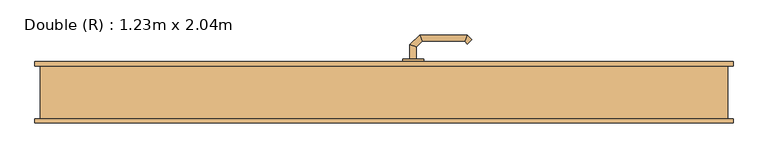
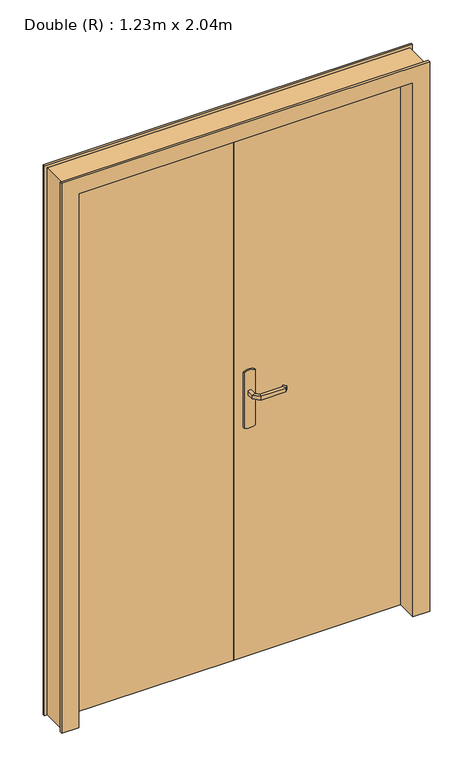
"""IFC4 building model written with IfcOpenShell, lengths in millimetres: door geometry, Double (R) : 1.23m x 2.04m."""

from ifc_helpers import new_model, si_unit, point, frame, frame_2d, origin, origin_with_axes, place, context, project, spatial, polyline, circle_curve, ellipse_curve, trimmed, segment, composite_curve, outline, extrude, faceted_brep, source, transform, mapped, element, save
from ifc_brep_helpers import plane_surface, cylinder_surface, advanced_brep


def double_r_1_23m_x_2_04m_3a946b1f(model_context):
    return source(origin(), model_context, "Body", "SolidModel", [
        advanced_brep(
        [(61.0, 13.0, 993.0), (49.0, 13.0, 993.0), (49.0, 13.0, 1007.0), (61.0, 13.0, 1007.0), (61.0, -9.4852045, 1007.0), (61.0, -9.4852045, 993.0), (49.0, -14.4557673, 1007.0), (49.0, -14.4557673, 993.0), (72.4852814, -20.9704859, 1007.0), (72.4852814, -20.9704859, 993.0), (67.5147186, -32.9704859, 1007.0), (67.5147186, -32.9704859, 993.0), (152.5605023, -20.9704859, 1007.0), (152.5605023, -20.9704859, 993.0), (157.531065, -32.9704859, 1007.0), (157.531065, -32.9704859, 993.0), (157.8742108, -15.6567774, 993.0), (157.8742108, -15.6567774, 1007.0), (166.3594922, -24.1420588, 1007.0), (166.3594922, -24.1420588, 993.0)],
        [
            (0, 1, circle_curve(frame((55.0, 13.0, 1013.0457722), z_axis=(0.0, 1.0, 0.0), x_axis=(-1.0, 0.0, 0.0)), 20.9244589)),
            (1, 2),
            (2, 3, circle_curve(frame((55.0, 13.0, 986.9542278), z_axis=(0.0, 1.0, 0.0), x_axis=(-1.0, 0.0, 0.0)), 20.9244589)),
            (3, 0),
            (3, 4),
            (4, 5),
            (5, 0),
            (2, 6),
            (6, 4, ellipse_curve(frame((55.0, -11.9704859, 986.9542278), z_axis=(-0.38268343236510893, 0.9238795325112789, 0.0), x_axis=(0.9238795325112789, 0.3826834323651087, 0.0)), 22.6484711, 20.9244589)),
            (1, 7),
            (7, 6),
            (5, 7, ellipse_curve(frame((55.0, -11.9704859, 1013.0457722), z_axis=(-0.38268343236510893, 0.9238795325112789, 0.0), x_axis=(0.9238795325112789, 0.3826834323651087, 0.0)), 22.6484711, 20.9244589)),
            (4, 8),
            (8, 9),
            (9, 5),
            (6, 10),
            (10, 8, ellipse_curve(frame((70.0, -26.9704859, 986.9542278), z_axis=(-0.9238795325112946, 0.38268343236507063, 0.0), x_axis=(0.3826834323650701, 0.9238795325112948, 0.0)), 22.6484711, 20.9244589)),
            (7, 11),
            (11, 10),
            (9, 11, ellipse_curve(frame((70.0, -26.9704859, 1013.0457722), z_axis=(-0.9238795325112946, 0.38268343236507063, 0.0), x_axis=(0.3826834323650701, 0.9238795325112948, 0.0)), 22.6484711, 20.9244589)),
            (8, 12),
            (12, 13),
            (13, 9),
            (10, 14),
            (14, 12, ellipse_curve(frame((155.0457837, -26.9704859, 986.9542278), z_axis=(-0.9238795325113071, -0.38268343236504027, 0.0), x_axis=(-0.38268343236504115, 0.9238795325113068, 0.0)), 22.6484711, 20.9244589)),
            (11, 15),
            (15, 14),
            (13, 15, ellipse_curve(frame((155.0457837, -26.9704859, 1013.0457722), z_axis=(-0.9238795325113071, -0.38268343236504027, 0.0), x_axis=(-0.38268343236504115, 0.9238795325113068, 0.0)), 22.6484711, 20.9244589)),
            (16, 17),
            (17, 18, circle_curve(frame((162.1168515, -19.8994181, 986.9542278), z_axis=(0.7071067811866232, 0.7071067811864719, 0.0), x_axis=(0.7071067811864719, -0.7071067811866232, 0.0)), 20.9244589)),
            (18, 19),
            (19, 16, circle_curve(frame((162.1168515, -19.8994181, 1013.0457722), z_axis=(0.7071067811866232, 0.7071067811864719, 0.0), x_axis=(0.7071067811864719, -0.7071067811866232, 0.0)), 20.9244589)),
            (12, 17),
            (16, 13),
            (14, 18),
            (15, 19),
        ],
        [
            plane_surface(frame((45.7804555, 13.0, 1000.0), z_axis=(0.0, 1.0, 0.0), x_axis=(0.0, 0.0, 1.0))),
            plane_surface(frame((61.0, 13.0, 993.0), z_axis=(1.0, 0.0, 0.0), x_axis=(0.0, -1.0, 0.0))),
            cylinder_surface(frame((55.0, 13.0, 986.9542278), z_axis=(0.0, 1.0, 0.0), x_axis=(-1.0, 0.0, 0.0)), 20.9244589),
            plane_surface(frame((49.0, 13.0, 1007.0), z_axis=(-1.0, 0.0, 0.0), x_axis=(0.0, -1.0, 0.0))),
            cylinder_surface(frame((55.0, 13.0, 1013.0457722), z_axis=(0.0, 1.0, 0.0), x_axis=(-1.0, 0.0, 0.0)), 20.9244589),
            plane_surface(frame((61.0, -9.4852045, 993.0), z_axis=(0.707106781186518, 0.707106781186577, 0.0), x_axis=(0.707106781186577, -0.707106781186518, 0.0))),
            cylinder_surface(frame((55.0, -11.9704859, 986.9542278), z_axis=(-0.7071067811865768, 0.7071067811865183, 0.0), x_axis=(-0.7071067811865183, -0.7071067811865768, 0.0)), 20.9244589),
            plane_surface(frame((49.0, -14.4557673, 1007.0), z_axis=(-0.7071067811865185, -0.7071067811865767, 0.0), x_axis=(0.7071067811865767, -0.7071067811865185, 0.0))),
            cylinder_surface(frame((55.0, -11.9704859, 1013.0457722), z_axis=(-0.7071067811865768, 0.7071067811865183, 0.0), x_axis=(-0.7071067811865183, -0.7071067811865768, 0.0)), 20.9244589),
            plane_surface(frame((72.4852814, -20.9704859, 993.0), z_axis=(0.0, 1.0, 0.0), x_axis=(1.0, 0.0, 0.0))),
            cylinder_surface(frame((70.0, -26.9704859, 986.9542278), z_axis=(-1.0, 0.0, 0.0), x_axis=(0.0, -1.0, 0.0)), 20.9244589),
            plane_surface(frame((67.5147186, -32.9704859, 1007.0), z_axis=(0.0, -1.0, 0.0), x_axis=(1.0, 0.0, 0.0))),
            cylinder_surface(frame((70.0, -26.9704859, 1013.0457722), z_axis=(-1.0, 0.0, 0.0), x_axis=(0.0, -1.0, 0.0)), 20.9244589),
            plane_surface(frame((162.1168515, -19.8994181, 990.7804555), z_axis=(0.7071067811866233, 0.7071067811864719, 0.0), x_axis=(0.7071067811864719, -0.7071067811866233, 0.0))),
            plane_surface(frame((152.5605023, -20.9704859, 993.0), z_axis=(-0.707106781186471, 0.7071067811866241, 0.0), x_axis=(0.7071067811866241, 0.707106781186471, 0.0))),
            cylinder_surface(frame((155.0457837, -26.9704859, 986.9542278), z_axis=(-0.7071067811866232, -0.7071067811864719, 0.0), x_axis=(0.7071067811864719, -0.7071067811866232, 0.0)), 20.9244589),
            plane_surface(frame((157.531065, -32.9704859, 1007.0), z_axis=(0.7071067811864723, -0.7071067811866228, 0.0), x_axis=(0.7071067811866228, 0.7071067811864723, 0.0))),
            cylinder_surface(frame((155.0457837, -26.9704859, 1013.0457722), z_axis=(-0.7071067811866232, -0.7071067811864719, 0.0), x_axis=(0.7071067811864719, -0.7071067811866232, 0.0)), 20.9244589),
        ],
        [
            (0, [[1, 2, 3, 4]]),
            (1, [[5, 6, 7, -4]]),
            (2, [[8, 9, -5, -3]]),
            (3, [[10, 11, -8, -2]]),
            (4, [[-7, 12, -10, -1]]),
            (5, [[13, 14, 15, -6]]),
            (6, [[16, 17, -13, -9]]),
            (7, [[18, 19, -16, -11]]),
            (8, [[-15, 20, -18, -12]]),
            (9, [[21, 22, 23, -14]]),
            (10, [[24, 25, -21, -17]]),
            (11, [[26, 27, -24, -19]]),
            (12, [[-23, 28, -26, -20]]),
            (13, [[29, 30, 31, 32]]),
            (14, [[33, -29, 34, -22]]),
            (15, [[35, -30, -33, -25]]),
            (16, [[36, -31, -35, -27]]),
            (17, [[-34, -32, -36, -28]]),
        ],
    ),
        advanced_brep(
        [(49.0, 63.0, 1007.0), (49.0, 63.0, 993.0), (61.0, 63.0, 993.0), (61.0, 63.0, 1007.0), (61.0, 85.680388, 1007.0), (49.0, 90.6509507, 1007.0), (61.0, 85.680388, 993.0), (49.0, 90.6509507, 993.0), (72.3477727, 97.0281607, 1007.0), (67.37721, 109.0281607, 1007.0), (72.3477727, 97.0281607, 993.0), (67.37721, 109.0281607, 993.0), (152.5333592, 97.0281607, 1007.0), (157.503922, 109.0281607, 1007.0), (152.5333592, 97.0281607, 993.0), (157.503922, 109.0281607, 993.0), (166.3323491, 100.1997336, 1007.0), (157.8470677, 91.7144522, 1007.0), (157.8470677, 91.7144522, 993.0), (166.3323491, 100.1997336, 993.0)],
        [
            (0, 1),
            (1, 2, circle_curve(frame((55.0, 63.0, 1013.0457722), z_axis=(0.0, -1.0, 0.0), x_axis=(1.0, 0.0, 0.0)), 20.9244589)),
            (2, 3),
            (3, 0, circle_curve(frame((55.0, 63.0, 986.9542278), z_axis=(0.0, -1.0, 0.0), x_axis=(1.0, 0.0, 0.0)), 20.9244589)),
            (3, 4),
            (4, 5, ellipse_curve(frame((55.0, 88.1656693, 986.9542278), z_axis=(-0.3826834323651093, -0.9238795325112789, 0.0), x_axis=(0.9238795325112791, -0.38268343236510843, 0.0)), 22.6484711, 20.9244589)),
            (5, 0),
            (2, 6),
            (6, 4),
            (1, 7),
            (7, 6, ellipse_curve(frame((55.0, 88.1656693, 1013.0457722), z_axis=(-0.3826834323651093, -0.9238795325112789, 0.0), x_axis=(0.9238795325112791, -0.38268343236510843, 0.0)), 22.6484711, 20.9244589)),
            (5, 7),
            (4, 8),
            (8, 9, ellipse_curve(frame((69.8624914, 103.0281607, 986.9542278), z_axis=(-0.9238795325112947, -0.38268343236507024, 0.0), x_axis=(0.3826834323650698, -0.9238795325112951, 0.0)), 22.6484711, 20.9244589)),
            (9, 5),
            (6, 10),
            (10, 8),
            (7, 11),
            (11, 10, ellipse_curve(frame((69.8624914, 103.0281607, 1013.0457722), z_axis=(-0.9238795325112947, -0.38268343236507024, 0.0), x_axis=(0.3826834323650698, -0.9238795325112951, 0.0)), 22.6484711, 20.9244589)),
            (9, 11),
            (8, 12),
            (12, 13, ellipse_curve(frame((155.0186406, 103.0281607, 986.9542278), z_axis=(-0.9238795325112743, 0.3826834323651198, 0.0), x_axis=(-0.38268343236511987, -0.9238795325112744, 0.0)), 22.6484711, 20.9244589)),
            (13, 9),
            (10, 14),
            (14, 12),
            (11, 15),
            (15, 14, ellipse_curve(frame((155.0186406, 103.0281607, 1013.0457722), z_axis=(-0.9238795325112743, 0.3826834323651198, 0.0), x_axis=(-0.38268343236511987, -0.9238795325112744, 0.0)), 22.6484711, 20.9244589)),
            (13, 15),
            (16, 17, circle_curve(frame((162.0897084, 95.9570929, 986.9542278), z_axis=(0.7071067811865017, -0.7071067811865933, 0.0), x_axis=(-0.7071067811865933, -0.7071067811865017, 0.0)), 20.9244589)),
            (17, 18),
            (18, 19, circle_curve(frame((162.0897084, 95.9570929, 1013.0457722), z_axis=(0.7071067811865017, -0.7071067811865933, 0.0), x_axis=(-0.7071067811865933, -0.7071067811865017, 0.0)), 20.9244589)),
            (19, 16),
            (12, 17),
            (16, 13),
            (14, 18),
            (15, 19),
        ],
        [
            plane_surface(frame((45.7804555, 63.0, 1000.0), z_axis=(0.0, -1.0, 0.0), x_axis=(0.0, 0.0, -1.0))),
            cylinder_surface(frame((55.0, 63.0, 986.9542278), z_axis=(0.0, -1.0, 0.0), x_axis=(1.0, 0.0, 0.0)), 20.9244589),
            plane_surface(frame((61.0, 63.0, 1007.0), z_axis=(1.0, 0.0, 0.0), x_axis=(0.0, 1.0, 0.0))),
            cylinder_surface(frame((55.0, 63.0, 1013.0457722), z_axis=(0.0, -1.0, 0.0), x_axis=(1.0, 0.0, 0.0)), 20.9244589),
            plane_surface(frame((49.0, 63.0, 993.0), z_axis=(-1.0, 0.0, 0.0), x_axis=(0.0, 1.0, 0.0))),
            cylinder_surface(frame((55.0, 88.1656693, 986.9542278), z_axis=(-0.7071067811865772, -0.7071067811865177, 0.0), x_axis=(0.7071067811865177, -0.7071067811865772, 0.0)), 20.9244589),
            plane_surface(frame((61.0, 85.680388, 1007.0), z_axis=(0.7071067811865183, -0.7071067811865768, 0.0), x_axis=(0.7071067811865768, 0.7071067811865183, 0.0))),
            cylinder_surface(frame((55.0, 88.1656693, 1013.0457722), z_axis=(-0.7071067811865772, -0.7071067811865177, 0.0), x_axis=(0.7071067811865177, -0.7071067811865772, 0.0)), 20.9244589),
            plane_surface(frame((49.0, 90.6509507, 993.0), z_axis=(-0.707106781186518, 0.707106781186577, 0.0), x_axis=(0.707106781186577, 0.707106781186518, 0.0))),
            cylinder_surface(frame((69.8624914, 103.0281607, 986.9542278), z_axis=(-1.0, 0.0, 0.0), x_axis=(0.0, -1.0, 0.0)), 20.9244589),
            plane_surface(frame((72.3477727, 97.0281607, 1007.0), z_axis=(0.0, -1.0, 0.0), x_axis=(1.0, 0.0, 0.0))),
            cylinder_surface(frame((69.8624914, 103.0281607, 1013.0457722), z_axis=(-1.0, 0.0, 0.0), x_axis=(0.0, -1.0, 0.0)), 20.9244589),
            plane_surface(frame((67.37721, 109.0281607, 993.0), z_axis=(0.0, 1.0, 0.0), x_axis=(1.0, 0.0, 0.0))),
            plane_surface(frame((162.0897084, 95.9570929, 1009.2195445), z_axis=(0.7071067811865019, -0.7071067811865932, 0.0), x_axis=(0.7071067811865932, 0.7071067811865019, 0.0))),
            cylinder_surface(frame((155.0186406, 103.0281607, 986.9542278), z_axis=(-0.7071067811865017, 0.7071067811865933, 0.0), x_axis=(-0.7071067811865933, -0.7071067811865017, 0.0)), 20.9244589),
            plane_surface(frame((152.5333592, 97.0281607, 1007.0), z_axis=(-0.7071067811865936, -0.7071067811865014, 0.0), x_axis=(0.7071067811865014, -0.7071067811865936, 0.0))),
            cylinder_surface(frame((155.0186406, 103.0281607, 1013.0457722), z_axis=(-0.7071067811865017, 0.7071067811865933, 0.0), x_axis=(-0.7071067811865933, -0.7071067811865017, 0.0)), 20.9244589),
            plane_surface(frame((157.503922, 109.0281607, 993.0), z_axis=(0.707106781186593, 0.7071067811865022, 0.0), x_axis=(0.7071067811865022, -0.707106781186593, 0.0))),
        ],
        [
            (0, [[1, 2, 3, 4]]),
            (1, [[5, 6, 7, -4]]),
            (2, [[8, 9, -5, -3]]),
            (3, [[10, 11, -8, -2]]),
            (4, [[-7, 12, -10, -1]]),
            (5, [[13, 14, 15, -6]]),
            (6, [[16, 17, -13, -9]]),
            (7, [[18, 19, -16, -11]]),
            (8, [[-15, 20, -18, -12]]),
            (9, [[21, 22, 23, -14]]),
            (10, [[24, 25, -21, -17]]),
            (11, [[26, 27, -24, -19]]),
            (12, [[-23, 28, -26, -20]]),
            (13, [[29, 30, 31, 32]]),
            (14, [[33, -29, 34, -22]]),
            (15, [[35, -30, -33, -25]]),
            (16, [[36, -31, -35, -27]]),
            (17, [[-34, -32, -36, -28]]),
        ],
    ),
        extrude(outline(composite_curve([segment(trimmed(circle_curve(frame_2d((1045.3589838, 55.0)), 40.0), [point((1080.0, 75.0))], [point((1080.0, 35.0))], False, "CARTESIAN"), True, "CONTINUOUS"), segment(polyline([(1080.0, 35.0), (870.0, 35.0)]), True, "CONTINUOUS"), segment(trimmed(circle_curve(frame_2d((904.6410162, 55.0)), 40.0), [point((870.0, 35.0))], [point((870.0, 75.0))], False, "CARTESIAN"), True, "CONTINUOUS"), segment(polyline([(870.0, 75.0), (1080.0, 75.0)]), True, "CONTINUOUS")], self_intersect=False)), frame((0.0, 13.0, 0.0), z_axis=(0.0, 1.0, 0.0), x_axis=(0.0, 0.0, 1.0)), (0.0, 0.0, 1.0), 5.0),
        extrude(outline(composite_curve([segment(trimmed(circle_curve(frame_2d((904.6410162, 55.0)), 40.0), [point((870.0, 35.0))], [point((870.0, 75.0))], False, "CARTESIAN"), True, "CONTINUOUS"), segment(polyline([(870.0, 75.0), (1080.0, 75.0)]), True, "CONTINUOUS"), segment(trimmed(circle_curve(frame_2d((1045.3589838, 55.0)), 40.0), [point((1080.0, 75.0))], [point((1080.0, 35.0))], False, "CARTESIAN"), True, "CONTINUOUS"), segment(polyline([(1080.0, 35.0), (870.0, 35.0)]), True, "CONTINUOUS")], self_intersect=False)), frame((0.0, 58.0, 0.0), z_axis=(0.0, 1.0, 0.0), x_axis=(0.0, 0.0, 1.0)), (0.0, 0.0, 1.0), 5.0),
        faceted_brep([(-650.0, 50.0, 0.0), (-660.0, 50.0, 0.0), (-660.0, 58.0, 0.0), (-615.0, 58.0, 0.0), (-615.0, 18.0, 0.0), (-600.0, 18.0, 0.0), (-600.0, -58.0, 0.0), (-660.0, -58.0, 0.0), (-660.0, -50.0, 0.0), (-650.0, -50.0, 0.0), (-650.0, -50.0, 2075.0), (-650.0, 50.0, 2075.0), (-660.0, -50.0, 2085.0), (660.0, -50.0, 2085.0), (660.0, -50.0, 0.0), (650.0, -50.0, 0.0), (650.0, -50.0, 2075.0), (-660.0, -58.0, 2085.0), (-600.0, -58.0, 2025.0), (600.0, -58.0, 2025.0), (600.0, -58.0, 0.0), (660.0, -58.0, 0.0), (660.0, -58.0, 2085.0), (-600.0, 18.0, 2025.0), (-615.0, 18.0, 2040.0), (615.0, 18.0, 2040.0), (615.0, 18.0, 0.0), (600.0, 18.0, 0.0), (600.0, 18.0, 2025.0), (-615.0, 58.0, 2040.0), (-660.0, 58.0, 2085.0), (660.0, 58.0, 2085.0), (660.0, 58.0, 0.0), (615.0, 58.0, 0.0), (615.0, 58.0, 2040.0), (-660.0, 50.0, 2085.0), (650.0, 50.0, 2075.0), (650.0, 50.0, 0.0), (660.0, 50.0, 0.0), (660.0, 50.0, 2085.0)], [[[0, 1, 2, 3, 4, 5, 6, 7, 8, 9]], [[9, 10, 11, 0]], [[8, 12, 13, 14, 15, 16, 10, 9]], [[7, 17, 12, 8]], [[6, 18, 19, 20, 21, 22, 17, 7]], [[5, 23, 18, 6]], [[4, 24, 25, 26, 27, 28, 23, 5]], [[3, 29, 24, 4]], [[2, 30, 31, 32, 33, 34, 29, 3]], [[1, 35, 30, 2]], [[0, 11, 36, 37, 38, 39, 35, 1]], [[16, 15, 37, 36]], [[37, 15, 14, 21, 20, 27, 26, 33, 32, 38]], [[22, 21, 14, 13]], [[28, 27, 20, 19]], [[34, 33, 26, 25]], [[39, 38, 32, 31]], [[10, 16, 36, 11]], [[17, 22, 13, 12]], [[23, 28, 19, 18]], [[29, 34, 25, 24]], [[35, 39, 31, 30]]]),
        extrude(outline(polyline([(615.0, 58.0), (615.0, 18.0), (0.0, 18.0), (0.0, 58.0), (615.0, 58.0)])), origin_with_axes(), (0.0, 0.0, 1.0), 2040.0),
        extrude(outline(polyline([(0.0, 58.0), (0.0, 18.0), (-615.0, 18.0), (-615.0, 58.0), (0.0, 58.0)])), origin_with_axes(), (0.0, 0.0, 1.0), 2040.0),
    ])


if __name__ == "__main__":
    model = new_model("IFC4")
    model_context = context("Model", 3, world=origin())
    ifc_project = project(units=[si_unit("LENGTHUNIT", "METRE", prefix="MILLI")], contexts=[model_context])
    site = spatial("IfcSite", under=ifc_project)
    building = spatial("IfcBuilding", under=site)
    placement = place(None, origin())
    double_r_1_23m_x_2_04m_shape = double_r_1_23m_x_2_04m_3a946b1f(model_context)
    element("IfcDoor", 1, ObjectType="Double (R) : 1.23m x 2.04m", at=placement, inside=building, context=model_context, shape_type="MappedRepresentation", body=[
        mapped(double_r_1_23m_x_2_04m_shape, transform((0.0, 0.0, 0.0), x_axis=(1.0, 0.0, 0.0), y_axis=(0.0, 1.0, 0.0), z_axis=(0.0, 0.0, 1.0))),
    ])
    save(model, "model.ifc")
